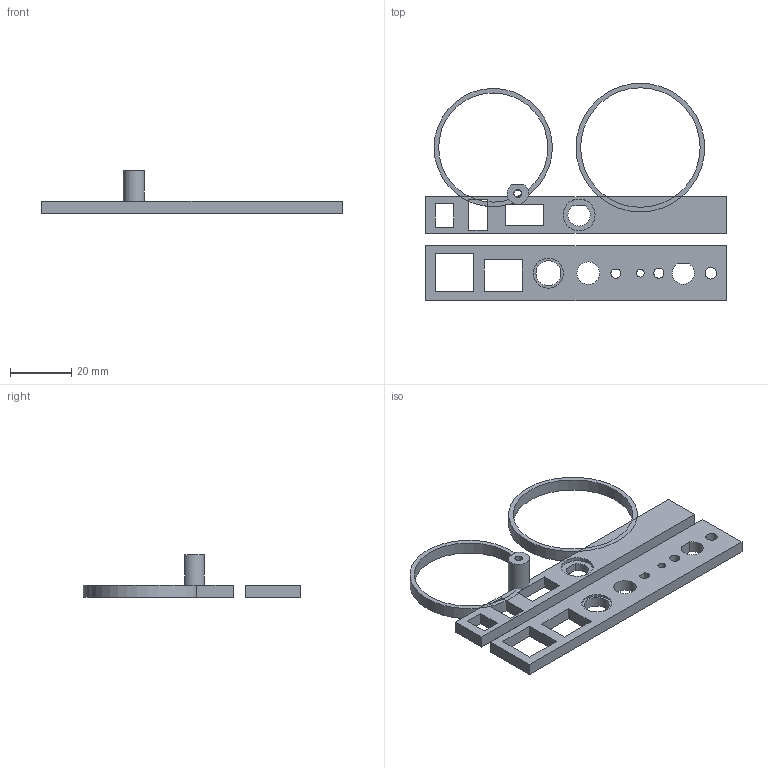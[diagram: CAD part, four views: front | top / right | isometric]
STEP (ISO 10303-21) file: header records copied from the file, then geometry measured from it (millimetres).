
FILE_DESCRIPTION(('Open CASCADE Model'),'2;1');
FILE_NAME('Open CASCADE Shape Model','2026-11-07T02:27:53',('Author'),( 'Open CASCADE'),'Open CASCADE STEP processor 8.0','build123d', 'Unknown');
FILE_SCHEMA(('AUTOMOTIVE_DESIGN { 1 0 10303 214 1 1 1 1 }'));
Length unit declared in the file: millimetre
Products named in the file (7): COMPOUND
Assembly tree (6 placements, depth 2):
  COMPOUND
    COMPOUND
    COMPOUND
    COMPOUND
    COMPOUND
    COMPOUND
    COMPOUND
Bounding box: 98 x 71 x 14 mm (x, y, z)
Volume: 10939 mm3; surface area: 11026 mm2
Topology: 6 solids, 6 shells, 68 faces, 162 edges, 108 vertices
Faces by surface type: plane 49, cylinder 19
Full cylindrical faces by diameter (mm): 2.5 x2, 3.3 x2, 3.8 x1, 7.4 x1, 8.15 x1, 9.8 x1, 10 x1, 10.4 x1, 35.6 x1, 38.6 x1, 39 x1, 42 x1
Entity records: 4127 total; most frequent: CARTESIAN_POINT 808, DIRECTION 547, ORIENTED_EDGE 324, PCURVE 324, DEFINITIONAL_REPRESENTATION 324, LINE 279, VECTOR 279, EDGE_CURVE 162
